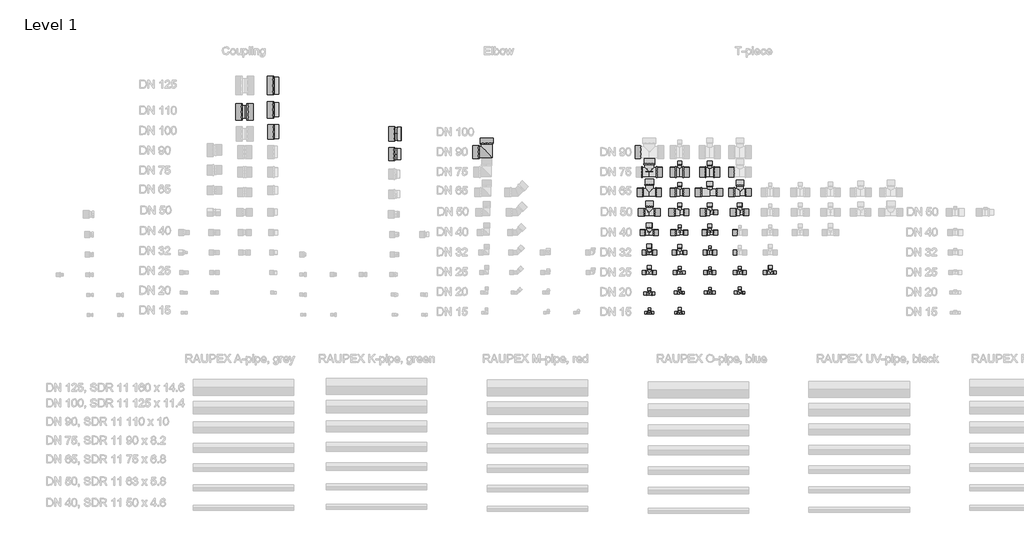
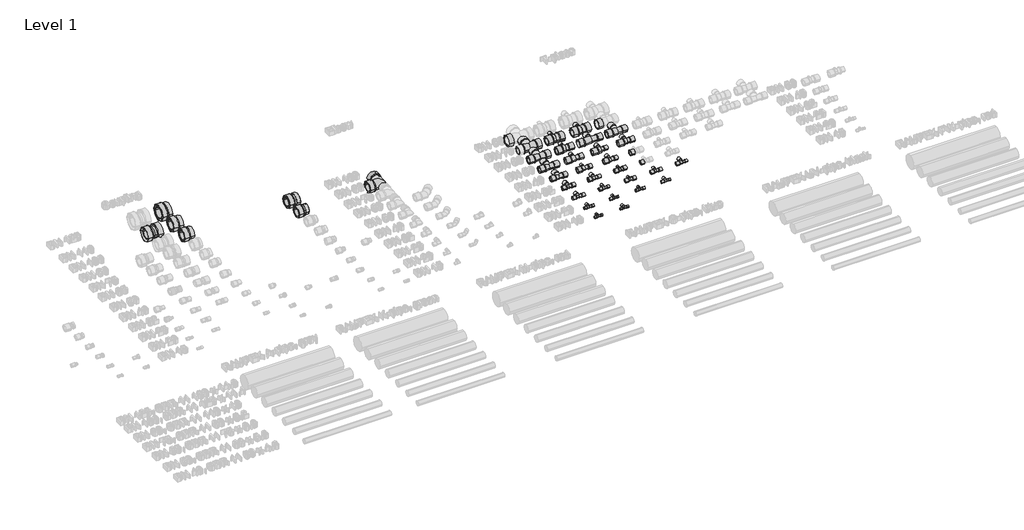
# One storey, part 4 of 15: 131 pipe fittings.
"""IFC4 building model written with IfcOpenShell, lengths in millimetres."""

from ifc_helpers import new_model, si_unit, origin, place, context, project, spatial, transform, mapped, element, save
from components import pipe_fitting_d056a93d, pipe_fitting_60fb9633, pipe_fitting_58d926c8, coupling_union_d5728b00, elbow_sdr11_lx_elbow_sdr_11_rx_9d03f633, male_adapter_external_thread_sdr11_male_adapter_rx_6bbcd7e3, male_adapter_external_thread_sdr11_male_adapter_rx_e6c9b75a, sleeve_lx_11_2e170aa1, sleeve_lx_11_3fcb8560, sleeve_lx_11_f19e3dbf, sleeve_lx_11_b9b419b6, sleeve_lx_11_e5eab1a7, sleeve_lx_11_ddfe2885, sleeve_rx_11_7b1edd19, sleeve_rx_11_d7843ee1, sleeve_rx_11_d7b6a074, sleeve_rx_11_833a9f47, sleeve_rx_11_cce1b402, sleeve_rx_11_53dfce0b, t_piece_sdr11_lx_0c2399d6, t_piece_sdr11_lx_7e9e5686, t_piece_sdr11_lx_2a0a5856, t_piece_sdr11_lx_9701a7f1, t_piece_sdr11_lx_c61b86e7, t_piece_sdr11_lx_81dca7c0, t_piece_sdr11_lx_fe109eb9, t_piece_sdr11_lx_d24ca570, t_piece_sdr11_lx_0c38f34f, t_piece_sdr11_lx_75e13a52, t_piece_sdr11_lx_4c8c54f7, t_piece_sdr11_lx_63dd1f1d, t_piece_sdr11_lx_b9ecea4a, t_piece_sdr11_lx_dfdbaae2, t_piece_sdr11_lx_df0b7dc8, t_piece_sdr11_lx_472ff839, t_piece_sdr11_lx_571a734e, t_piece_sdr11_lx_031e45e8, t_piece_sdr11_lx_4579e213, t_piece_sdr11_lx_62f51ed1, t_piece_sdr11_lx_d5a7428d, t_piece_sdr11_lx_t_piece_sdr11_rx_1e658908, t_piece_sdr11_lx_t_piece_sdr11_rx_ffd7d234, t_piece_sdr11_lx_t_piece_sdr11_rx_21ca84d2, t_piece_sdr11_lx_t_piece_sdr11_rx_c902879b, t_piece_sdr11_lx_t_piece_sdr11_rx_e4a54ba6, t_piece_sdr11_lx_t_piece_sdr11_rx_d9e8349e, t_piece_sdr11_lx_t_piece_sdr11_rx_7a841b34

model = new_model("IFC4")

# Units and contexts
model_context = context("Model", 3, world=origin())
ifc_project = project(units=[si_unit("LENGTHUNIT", "METRE", prefix="MILLI")], contexts=[model_context])

# Site, building, storey
site = spatial("IfcSite", under=ifc_project)
building = spatial("IfcBuilding", under=site)
storey = spatial("IfcBuildingStorey", under=building, Name="Level 1", Elevation=0.0)

# Pipe fittings
placement = place(None, origin())
pipe_fitting_shape = pipe_fitting_d056a93d(model_context)
element("IfcPipeFitting", 1, ObjectType="Adapter with welding end : A welding RX", at=placement, inside=storey, context=model_context, shape_type="MappedRepresentation", body=[
    mapped(pipe_fitting_shape, transform((12403.1112925, 2700.5489138, 0.0), x_axis=(1.0, 0.0, 0.0), y_axis=(0.0, 1.0, 0.0), z_axis=(0.0, 0.0, 1.0))),
])
pipe_fitting_2_shape = pipe_fitting_60fb9633(model_context)
element("IfcPipeFitting", 2, ObjectType="Adapter with welding end : A welding RX", at=placement, inside=storey, context=model_context, shape_type="MappedRepresentation", body=[
    mapped(pipe_fitting_2_shape, transform((12403.1112925, 2240.5489138, 0.0), x_axis=(1.0, 0.0, 0.0), y_axis=(0.0, 1.0, 0.0), z_axis=(0.0, 0.0, 1.0))),
])
pipe_fitting_3_shape = pipe_fitting_58d926c8(model_context)
element("IfcPipeFitting", 3, ObjectType="Adapter with welding end : A welding RX", at=placement, inside=storey, context=model_context, shape_type="MappedRepresentation", body=[
    mapped(pipe_fitting_3_shape, transform((12403.1112925, 2460.5489138, 0.0), x_axis=(1.0, 0.0, 0.0), y_axis=(0.0, 1.0, 0.0), z_axis=(0.0, 0.0, 1.0))),
])
coupling_union_shape = coupling_union_d5728b00(model_context)
element("IfcPipeFitting", 4, ObjectType="Coupling union : C EQ SDR11 RX", at=placement, inside=storey, context=model_context, shape_type="MappedRepresentation", body=[
    mapped(coupling_union_shape, transform((12103.1112925, 2440.5489138, 0.0), x_axis=(1.0, 0.0, 0.0), y_axis=(0.0, 1.0, 0.0), z_axis=(0.0, 0.0, 1.0))),
])
elbow_sdr11_lx_elbow_sdr_11_rx_shape = elbow_sdr11_lx_elbow_sdr_11_rx_9d03f633(model_context)
element("IfcPipeFitting", 5, ObjectType="Elbow SDR11 LX : Elbow SDR 11 RX", at=placement, inside=storey, context=model_context, shape_type="MappedRepresentation", body=[
    mapped(elbow_sdr11_lx_elbow_sdr_11_rx_shape, transform((14509.6158086, 2040.5489138, 0.0), x_axis=(1.0, 0.0, 0.0), y_axis=(0.0, 1.0, 0.0), z_axis=(0.0, 0.0, 1.0))),
])
male_adapter_external_thread_sdr11_male_adapter_rx_shape = male_adapter_external_thread_sdr11_male_adapter_rx_6bbcd7e3(model_context)
element("IfcPipeFitting", 6, ObjectType="Male adapter external thread SDR11 : Male adapter RX", at=placement, inside=storey, context=model_context, shape_type="MappedRepresentation", body=[
    mapped(male_adapter_external_thread_sdr11_male_adapter_rx_shape, transform((13596.8014725, 2020.5489138, 0.0), x_axis=(1.0, 0.0, 0.0), y_axis=(0.0, 1.0, 0.0), z_axis=(0.0, 0.0, 1.0))),
])
male_adapter_external_thread_sdr11_male_adapter_rx_2_shape = male_adapter_external_thread_sdr11_male_adapter_rx_e6c9b75a(model_context)
element("IfcPipeFitting", 7, ObjectType="Male adapter external thread SDR11 : Male adapter RX", at=placement, inside=storey, context=model_context, shape_type="MappedRepresentation", body=[
    mapped(male_adapter_external_thread_sdr11_male_adapter_rx_2_shape, transform((13596.8014725, 2220.5489138, 0.0), x_axis=(1.0, 0.0, 0.0), y_axis=(0.0, 1.0, 0.0), z_axis=(0.0, 0.0, 1.0))),
])
sleeve_lx_11_shape = sleeve_lx_11_2e170aa1(model_context)
element("IfcPipeFitting", 8, ObjectType="Sleeve : LX 11", at=placement, inside=storey, context=model_context, shape_type="MappedRepresentation", body=[
    mapped(sleeve_lx_11_shape, transform((16056.7141419, 840.5489138, 0.0), x_axis=(1.0, 0.0, 0.0), y_axis=(0.0, 1.0, 0.0), z_axis=(0.0, 0.0, 1.0))),
])
element("IfcPipeFitting", 9, ObjectType="Sleeve : LX 11", at=placement, inside=storey, context=model_context, shape_type="MappedRepresentation", body=[
    mapped(sleeve_lx_11_shape, transform((16126.2141419, 875.5489138, 0.0), x_axis=(0.0, 1.0, 0.0), y_axis=(-1.0, 0.0, 0.0), z_axis=(0.0, 0.0, 1.0))),
])
element("IfcPipeFitting", 10, ObjectType="Sleeve : LX 11", at=placement, inside=storey, context=model_context, shape_type="MappedRepresentation", body=[
    mapped(sleeve_lx_11_shape, transform((16160.7141419, 840.5489138, 0.0), x_axis=(1.0, 0.0, 0.0), y_axis=(0.0, 1.0, 0.0), z_axis=(0.0, 0.0, 1.0))),
])
element("IfcPipeFitting", 11, ObjectType="Sleeve : LX 11", at=placement, inside=storey, context=model_context, shape_type="MappedRepresentation", body=[
    mapped(sleeve_lx_11_shape, transform((16361.4141419, 840.5489138, 0.0), x_axis=(1.0, 0.0, 0.0), y_axis=(0.0, 1.0, 0.0), z_axis=(0.0, 0.0, 1.0))),
])
element("IfcPipeFitting", 12, ObjectType="Sleeve : LX 11", at=placement, inside=storey, context=model_context, shape_type="MappedRepresentation", body=[
    mapped(sleeve_lx_11_shape, transform((16426.2141419, 1082.5489138, 0.0), x_axis=(0.0, 1.0, 0.0), y_axis=(-1.0, 0.0, 0.0), z_axis=(0.0, 0.0, 1.0))),
])
element("IfcPipeFitting", 13, ObjectType="Sleeve : LX 11", at=placement, inside=storey, context=model_context, shape_type="MappedRepresentation", body=[
    mapped(sleeve_lx_11_shape, transform((16461.2141419, 1040.5489138, 0.0), x_axis=(1.0, 0.0, 0.0), y_axis=(0.0, 1.0, 0.0), z_axis=(0.0, 0.0, 1.0))),
])
element("IfcPipeFitting", 14, ObjectType="Sleeve : LX 11", at=placement, inside=storey, context=model_context, shape_type="MappedRepresentation", body=[
    mapped(sleeve_lx_11_shape, transform((16726.2141419, 1288.9489138, 0.0), x_axis=(0.0, 1.0, 0.0), y_axis=(-1.0, 0.0, 0.0), z_axis=(0.0, 0.0, 1.0))),
])
element("IfcPipeFitting", 15, ObjectType="Sleeve : LX 11", at=placement, inside=storey, context=model_context, shape_type="MappedRepresentation", body=[
    mapped(sleeve_lx_11_shape, transform((16426.2141419, 1495.5489138, 0.0), x_axis=(0.0, 1.0, 0.0), y_axis=(-1.0, 0.0, 0.0), z_axis=(0.0, 0.0, 1.0))),
])
element("IfcPipeFitting", 16, ObjectType="Sleeve : LX 11", at=placement, inside=storey, context=model_context, shape_type="MappedRepresentation", body=[
    mapped(sleeve_lx_11_shape, transform((16426.2141419, 1702.5489138, 0.0), x_axis=(0.0, 1.0, 0.0), y_axis=(-1.0, 0.0, 0.0), z_axis=(0.0, 0.0, 1.0))),
])
element("IfcPipeFitting", 17, ObjectType="Sleeve : LX 11", at=placement, inside=storey, context=model_context, shape_type="MappedRepresentation", body=[
    mapped(sleeve_lx_11_shape, transform((16665.2141419, 840.5489138, 0.0), x_axis=(1.0, 0.0, 0.0), y_axis=(0.0, 1.0, 0.0), z_axis=(0.0, 0.0, 1.0))),
])
element("IfcPipeFitting", 18, ObjectType="Sleeve : LX 11", at=placement, inside=storey, context=model_context, shape_type="MappedRepresentation", body=[
    mapped(sleeve_lx_11_shape, transform((16752.2141419, 840.5489138, 0.0), x_axis=(1.0, 0.0, 0.0), y_axis=(0.0, 1.0, 0.0), z_axis=(0.0, 0.0, 1.0))),
])
element("IfcPipeFitting", 19, ObjectType="Sleeve : LX 11", at=placement, inside=storey, context=model_context, shape_type="MappedRepresentation", body=[
    mapped(sleeve_lx_11_shape, transform((16961.7141419, 840.5489138, 0.0), x_axis=(1.0, 0.0, 0.0), y_axis=(0.0, 1.0, 0.0), z_axis=(0.0, 0.0, 1.0))),
])
element("IfcPipeFitting", 20, ObjectType="Sleeve : LX 11", at=placement, inside=storey, context=model_context, shape_type="MappedRepresentation", body=[
    mapped(sleeve_lx_11_shape, transform((17055.7141419, 840.5489138, 0.0), x_axis=(1.0, 0.0, 0.0), y_axis=(0.0, 1.0, 0.0), z_axis=(0.0, 0.0, 1.0))),
])
element("IfcPipeFitting", 21, ObjectType="Sleeve : LX 11", at=placement, inside=storey, context=model_context, shape_type="MappedRepresentation", body=[
    mapped(sleeve_lx_11_shape, transform((16426.2141419, 1913.0489138, 0.0), x_axis=(0.0, 1.0, 0.0), y_axis=(-1.0, 0.0, 0.0), z_axis=(0.0, 0.0, 1.0))),
])
element("IfcPipeFitting", 22, ObjectType="Sleeve : LX 11", at=placement, inside=storey, context=model_context, shape_type="MappedRepresentation", body=[
    mapped(sleeve_lx_11_shape, transform((17256.7141419, 840.5489138, 0.0), x_axis=(1.0, 0.0, 0.0), y_axis=(0.0, 1.0, 0.0), z_axis=(0.0, 0.0, 1.0))),
])
element("IfcPipeFitting", 23, ObjectType="Sleeve : LX 11", at=placement, inside=storey, context=model_context, shape_type="MappedRepresentation", body=[
    mapped(sleeve_lx_11_shape, transform((17326.2141419, 875.9489138, 0.0), x_axis=(0.0, 1.0, 0.0), y_axis=(-1.0, 0.0, 0.0), z_axis=(0.0, 0.0, 1.0))),
])
sleeve_lx_11_2_shape = sleeve_lx_11_3fcb8560(model_context)
element("IfcPipeFitting", 24, ObjectType="Sleeve : LX 11", at=placement, inside=storey, context=model_context, shape_type="MappedRepresentation", body=[
    mapped(sleeve_lx_11_2_shape, transform((16081.2141419, 440.5489138, 0.0), x_axis=(1.0, 0.0, 0.0), y_axis=(0.0, 1.0, 0.0), z_axis=(0.0, 0.0, 1.0))),
])
element("IfcPipeFitting", 25, ObjectType="Sleeve : LX 11", at=placement, inside=storey, context=model_context, shape_type="MappedRepresentation", body=[
    mapped(sleeve_lx_11_2_shape, transform((16126.2141419, 468.9489138, 0.0), x_axis=(0.0, 1.0, 0.0), y_axis=(-1.0, 0.0, 0.0), z_axis=(0.0, 0.0, 1.0))),
])
element("IfcPipeFitting", 26, ObjectType="Sleeve : LX 11", at=placement, inside=storey, context=model_context, shape_type="MappedRepresentation", body=[
    mapped(sleeve_lx_11_2_shape, transform((16151.2141419, 440.5489138, 0.0), x_axis=(1.0, 0.0, 0.0), y_axis=(0.0, 1.0, 0.0), z_axis=(0.0, 0.0, 1.0))),
])
element("IfcPipeFitting", 27, ObjectType="Sleeve : LX 11", at=placement, inside=storey, context=model_context, shape_type="MappedRepresentation", body=[
    mapped(sleeve_lx_11_2_shape, transform((16426.2141419, 671.6489138, 0.0), x_axis=(0.0, 1.0, 0.0), y_axis=(-1.0, 0.0, 0.0), z_axis=(0.0, 0.0, 1.0))),
])
element("IfcPipeFitting", 28, ObjectType="Sleeve : LX 11", at=placement, inside=storey, context=model_context, shape_type="MappedRepresentation", body=[
    mapped(sleeve_lx_11_2_shape, transform((16451.2141419, 640.5489138, 0.0), x_axis=(1.0, 0.0, 0.0), y_axis=(0.0, 1.0, 0.0), z_axis=(0.0, 0.0, 1.0))),
])
element("IfcPipeFitting", 29, ObjectType="Sleeve : LX 11", at=placement, inside=storey, context=model_context, shape_type="MappedRepresentation", body=[
    mapped(sleeve_lx_11_2_shape, transform((16726.2141419, 671.6489138, 0.0), x_axis=(0.0, 1.0, 0.0), y_axis=(-1.0, 0.0, 0.0), z_axis=(0.0, 0.0, 1.0))),
])
element("IfcPipeFitting", 30, ObjectType="Sleeve : LX 11", at=placement, inside=storey, context=model_context, shape_type="MappedRepresentation", body=[
    mapped(sleeve_lx_11_2_shape, transform((16726.2141419, 875.5489138, 0.0), x_axis=(0.0, 1.0, 0.0), y_axis=(-1.0, 0.0, 0.0), z_axis=(0.0, 0.0, 1.0))),
])
element("IfcPipeFitting", 31, ObjectType="Sleeve : LX 11", at=placement, inside=storey, context=model_context, shape_type="MappedRepresentation", body=[
    mapped(sleeve_lx_11_2_shape, transform((16726.2141419, 1082.7489138, 0.0), x_axis=(0.0, 1.0, 0.0), y_axis=(-1.0, 0.0, 0.0), z_axis=(0.0, 0.0, 1.0))),
])
element("IfcPipeFitting", 32, ObjectType="Sleeve : LX 11", at=placement, inside=storey, context=model_context, shape_type="MappedRepresentation", body=[
    mapped(sleeve_lx_11_2_shape, transform((16377.7141419, 440.5489138, 0.0), x_axis=(1.0, 0.0, 0.0), y_axis=(0.0, 1.0, 0.0), z_axis=(0.0, 0.0, 1.0))),
])
element("IfcPipeFitting", 33, ObjectType="Sleeve : LX 11", at=placement, inside=storey, context=model_context, shape_type="MappedRepresentation", body=[
    mapped(sleeve_lx_11_2_shape, transform((16454.7141419, 440.5489138, 0.0), x_axis=(1.0, 0.0, 0.0), y_axis=(0.0, 1.0, 0.0), z_axis=(0.0, 0.0, 1.0))),
])
element("IfcPipeFitting", 34, ObjectType="Sleeve : LX 11", at=placement, inside=storey, context=model_context, shape_type="MappedRepresentation", body=[
    mapped(sleeve_lx_11_2_shape, transform((17054.2141419, 640.5489138, 0.0), x_axis=(1.0, 0.0, 0.0), y_axis=(0.0, 1.0, 0.0), z_axis=(0.0, 0.0, 1.0))),
])
sleeve_lx_11_3_shape = sleeve_lx_11_f19e3dbf(model_context)
element("IfcPipeFitting", 35, ObjectType="Sleeve : LX 11", at=placement, inside=storey, context=model_context, shape_type="MappedRepresentation", body=[
    mapped(sleeve_lx_11_3_shape, transform((16070.7141419, 630.5489138, 0.0), x_axis=(1.0, 0.0, 0.0), y_axis=(0.0, 1.0, 0.0), z_axis=(0.0, 0.0, 1.0))),
])
element("IfcPipeFitting", 36, ObjectType="Sleeve : LX 11", at=placement, inside=storey, context=model_context, shape_type="MappedRepresentation", body=[
    mapped(sleeve_lx_11_3_shape, transform((16126.2141419, 661.6489138, 0.0), x_axis=(0.0, 1.0, 0.0), y_axis=(-1.0, 0.0, 0.0), z_axis=(0.0, 0.0, 1.0))),
])
element("IfcPipeFitting", 37, ObjectType="Sleeve : LX 11", at=placement, inside=storey, context=model_context, shape_type="MappedRepresentation", body=[
    mapped(sleeve_lx_11_3_shape, transform((16154.7141419, 630.5489138, 0.0), x_axis=(1.0, 0.0, 0.0), y_axis=(0.0, 1.0, 0.0), z_axis=(0.0, 0.0, 1.0))),
])
element("IfcPipeFitting", 38, ObjectType="Sleeve : LX 11", at=placement, inside=storey, context=model_context, shape_type="MappedRepresentation", body=[
    mapped(sleeve_lx_11_3_shape, transform((16374.2141419, 640.5489138, 0.0), x_axis=(1.0, 0.0, 0.0), y_axis=(0.0, 1.0, 0.0), z_axis=(0.0, 0.0, 1.0))),
])
element("IfcPipeFitting", 39, ObjectType="Sleeve : LX 11", at=placement, inside=storey, context=model_context, shape_type="MappedRepresentation", body=[
    mapped(sleeve_lx_11_3_shape, transform((16426.2141419, 874.5489138, 0.0), x_axis=(0.0, 1.0, 0.0), y_axis=(-1.0, 0.0, 0.0), z_axis=(0.0, 0.0, 1.0))),
])
element("IfcPipeFitting", 40, ObjectType="Sleeve : LX 11", at=placement, inside=storey, context=model_context, shape_type="MappedRepresentation", body=[
    mapped(sleeve_lx_11_3_shape, transform((16455.0141419, 840.5489138, 0.0), x_axis=(1.0, 0.0, 0.0), y_axis=(0.0, 1.0, 0.0), z_axis=(0.0, 0.0, 1.0))),
])
element("IfcPipeFitting", 41, ObjectType="Sleeve : LX 11", at=placement, inside=storey, context=model_context, shape_type="MappedRepresentation", body=[
    mapped(sleeve_lx_11_3_shape, transform((16426.2141419, 1286.4489138, 0.0), x_axis=(0.0, 1.0, 0.0), y_axis=(-1.0, 0.0, 0.0), z_axis=(0.0, 0.0, 1.0))),
])
element("IfcPipeFitting", 42, ObjectType="Sleeve : LX 11", at=placement, inside=storey, context=model_context, shape_type="MappedRepresentation", body=[
    mapped(sleeve_lx_11_3_shape, transform((16673.7141419, 640.5489138, 0.0), x_axis=(1.0, 0.0, 0.0), y_axis=(0.0, 1.0, 0.0), z_axis=(0.0, 0.0, 1.0))),
])
element("IfcPipeFitting", 43, ObjectType="Sleeve : LX 11", at=placement, inside=storey, context=model_context, shape_type="MappedRepresentation", body=[
    mapped(sleeve_lx_11_3_shape, transform((16751.7141419, 640.5489138, 0.0), x_axis=(1.0, 0.0, 0.0), y_axis=(0.0, 1.0, 0.0), z_axis=(0.0, 0.0, 1.0))),
])
element("IfcPipeFitting", 44, ObjectType="Sleeve : LX 11", at=placement, inside=storey, context=model_context, shape_type="MappedRepresentation", body=[
    mapped(sleeve_lx_11_3_shape, transform((17026.2141419, 875.5489138, 0.0), x_axis=(0.0, 1.0, 0.0), y_axis=(-1.0, 0.0, 0.0), z_axis=(0.0, 0.0, 1.0))),
])
element("IfcPipeFitting", 45, ObjectType="Sleeve : LX 11", at=placement, inside=storey, context=model_context, shape_type="MappedRepresentation", body=[
    mapped(sleeve_lx_11_3_shape, transform((16426.2141419, 465.9489138, 0.0), x_axis=(0.0, 1.0, 0.0), y_axis=(-1.0, 0.0, 0.0), z_axis=(0.0, 0.0, 1.0))),
])
element("IfcPipeFitting", 46, ObjectType="Sleeve : LX 11", at=placement, inside=storey, context=model_context, shape_type="MappedRepresentation", body=[
    mapped(sleeve_lx_11_3_shape, transform((16971.2141419, 640.5489138, 0.0), x_axis=(1.0, 0.0, 0.0), y_axis=(0.0, 1.0, 0.0), z_axis=(0.0, 0.0, 1.0))),
])
element("IfcPipeFitting", 47, ObjectType="Sleeve : LX 11", at=placement, inside=storey, context=model_context, shape_type="MappedRepresentation", body=[
    mapped(sleeve_lx_11_3_shape, transform((17026.2141419, 672.0489138, 0.0), x_axis=(0.0, 1.0, 0.0), y_axis=(-1.0, 0.0, 0.0), z_axis=(0.0, 0.0, 1.0))),
])
element("IfcPipeFitting", 48, ObjectType="Sleeve : LX 11", at=placement, inside=storey, context=model_context, shape_type="MappedRepresentation", body=[
    mapped(sleeve_lx_11_3_shape, transform((17359.7141419, 840.5489138, 0.0), x_axis=(1.0, 0.0, 0.0), y_axis=(0.0, 1.0, 0.0), z_axis=(0.0, 0.0, 1.0))),
])
sleeve_lx_11_4_shape = sleeve_lx_11_b9b419b6(model_context)
element("IfcPipeFitting", 49, ObjectType="Sleeve : LX 11", at=placement, inside=storey, context=model_context, shape_type="MappedRepresentation", body=[
    mapped(sleeve_lx_11_4_shape, transform((16054.9141419, 1040.5489138, 0.0), x_axis=(1.0, 0.0, 0.0), y_axis=(0.0, 1.0, 0.0), z_axis=(0.0, 0.0, 1.0))),
])
element("IfcPipeFitting", 50, ObjectType="Sleeve : LX 11", at=placement, inside=storey, context=model_context, shape_type="MappedRepresentation", body=[
    mapped(sleeve_lx_11_4_shape, transform((16126.2141419, 1085.8489138, 0.0), x_axis=(0.0, 1.0, 0.0), y_axis=(-1.0, 0.0, 0.0), z_axis=(0.0, 0.0, 1.0))),
])
element("IfcPipeFitting", 51, ObjectType="Sleeve : LX 11", at=placement, inside=storey, context=model_context, shape_type="MappedRepresentation", body=[
    mapped(sleeve_lx_11_4_shape, transform((16160.5141419, 1040.5489138, 0.0), x_axis=(1.0, 0.0, 0.0), y_axis=(0.0, 1.0, 0.0), z_axis=(0.0, 0.0, 1.0))),
])
element("IfcPipeFitting", 52, ObjectType="Sleeve : LX 11", at=placement, inside=storey, context=model_context, shape_type="MappedRepresentation", body=[
    mapped(sleeve_lx_11_4_shape, transform((16354.2141419, 1040.5489138, 0.0), x_axis=(1.0, 0.0, 0.0), y_axis=(0.0, 1.0, 0.0), z_axis=(0.0, 0.0, 1.0))),
])
element("IfcPipeFitting", 53, ObjectType="Sleeve : LX 11", at=placement, inside=storey, context=model_context, shape_type="MappedRepresentation", body=[
    mapped(sleeve_lx_11_4_shape, transform((16469.2141419, 1240.5489138, 0.0), x_axis=(1.0, 0.0, 0.0), y_axis=(0.0, 1.0, 0.0), z_axis=(0.0, 0.0, 1.0))),
])
element("IfcPipeFitting", 54, ObjectType="Sleeve : LX 11", at=placement, inside=storey, context=model_context, shape_type="MappedRepresentation", body=[
    mapped(sleeve_lx_11_4_shape, transform((16767.3141419, 1240.5489138, 0.0), x_axis=(1.0, 0.0, 0.0), y_axis=(0.0, 1.0, 0.0), z_axis=(0.0, 0.0, 1.0))),
])
element("IfcPipeFitting", 55, ObjectType="Sleeve : LX 11", at=placement, inside=storey, context=model_context, shape_type="MappedRepresentation", body=[
    mapped(sleeve_lx_11_4_shape, transform((16726.2141419, 1497.0489138, 0.0), x_axis=(0.0, 1.0, 0.0), y_axis=(-1.0, 0.0, 0.0), z_axis=(0.0, 0.0, 1.0))),
])
element("IfcPipeFitting", 56, ObjectType="Sleeve : LX 11", at=placement, inside=storey, context=model_context, shape_type="MappedRepresentation", body=[
    mapped(sleeve_lx_11_4_shape, transform((16767.3141419, 1440.5489138, 0.0), x_axis=(1.0, 0.0, 0.0), y_axis=(0.0, 1.0, 0.0), z_axis=(0.0, 0.0, 1.0))),
])
element("IfcPipeFitting", 57, ObjectType="Sleeve : LX 11", at=placement, inside=storey, context=model_context, shape_type="MappedRepresentation", body=[
    mapped(sleeve_lx_11_4_shape, transform((17026.2141419, 1497.0489138, 0.0), x_axis=(0.0, 1.0, 0.0), y_axis=(-1.0, 0.0, 0.0), z_axis=(0.0, 0.0, 1.0))),
])
element("IfcPipeFitting", 58, ObjectType="Sleeve : LX 11", at=placement, inside=storey, context=model_context, shape_type="MappedRepresentation", body=[
    mapped(sleeve_lx_11_4_shape, transform((16659.0141419, 1040.5489138, 0.0), x_axis=(1.0, 0.0, 0.0), y_axis=(0.0, 1.0, 0.0), z_axis=(0.0, 0.0, 1.0))),
])
element("IfcPipeFitting", 59, ObjectType="Sleeve : LX 11", at=placement, inside=storey, context=model_context, shape_type="MappedRepresentation", body=[
    mapped(sleeve_lx_11_4_shape, transform((16756.4141419, 1040.5489138, 0.0), x_axis=(1.0, 0.0, 0.0), y_axis=(0.0, 1.0, 0.0), z_axis=(0.0, 0.0, 1.0))),
])
element("IfcPipeFitting", 60, ObjectType="Sleeve : LX 11", at=placement, inside=storey, context=model_context, shape_type="MappedRepresentation", body=[
    mapped(sleeve_lx_11_4_shape, transform((16959.4141419, 1040.5489138, 0.0), x_axis=(1.0, 0.0, 0.0), y_axis=(0.0, 1.0, 0.0), z_axis=(0.0, 0.0, 1.0))),
])
element("IfcPipeFitting", 61, ObjectType="Sleeve : LX 11", at=placement, inside=storey, context=model_context, shape_type="MappedRepresentation", body=[
    mapped(sleeve_lx_11_4_shape, transform((16726.2141419, 1912.0489138, 0.0), x_axis=(0.0, 1.0, 0.0), y_axis=(-1.0, 0.0, 0.0), z_axis=(0.0, 0.0, 1.0))),
])
sleeve_lx_11_5_shape = sleeve_lx_11_e5eab1a7(model_context)
element("IfcPipeFitting", 62, ObjectType="Sleeve : LX 11", at=placement, inside=storey, context=model_context, shape_type="MappedRepresentation", body=[
    mapped(sleeve_lx_11_5_shape, transform((16036.4141419, 1240.5489138, 0.0), x_axis=(1.0, 0.0, 0.0), y_axis=(0.0, 1.0, 0.0), z_axis=(0.0, 0.0, 1.0))),
])
element("IfcPipeFitting", 63, ObjectType="Sleeve : LX 11", at=placement, inside=storey, context=model_context, shape_type="MappedRepresentation", body=[
    mapped(sleeve_lx_11_5_shape, transform((16126.2141419, 1289.7489138, 0.0), x_axis=(0.0, 1.0, 0.0), y_axis=(-1.0, 0.0, 0.0), z_axis=(0.0, 0.0, 1.0))),
])
element("IfcPipeFitting", 64, ObjectType="Sleeve : LX 11", at=placement, inside=storey, context=model_context, shape_type="MappedRepresentation", body=[
    mapped(sleeve_lx_11_5_shape, transform((16172.0141419, 1240.5489138, 0.0), x_axis=(1.0, 0.0, 0.0), y_axis=(0.0, 1.0, 0.0), z_axis=(0.0, 0.0, 1.0))),
])
element("IfcPipeFitting", 65, ObjectType="Sleeve : LX 11", at=placement, inside=storey, context=model_context, shape_type="MappedRepresentation", body=[
    mapped(sleeve_lx_11_5_shape, transform((16340.6141419, 1240.5489138, 0.0), x_axis=(1.0, 0.0, 0.0), y_axis=(0.0, 1.0, 0.0), z_axis=(0.0, 0.0, 1.0))),
])
element("IfcPipeFitting", 66, ObjectType="Sleeve : LX 11", at=placement, inside=storey, context=model_context, shape_type="MappedRepresentation", body=[
    mapped(sleeve_lx_11_5_shape, transform((16649.9141419, 1240.5489138, 0.0), x_axis=(1.0, 0.0, 0.0), y_axis=(0.0, 1.0, 0.0), z_axis=(0.0, 0.0, 1.0))),
])
element("IfcPipeFitting", 67, ObjectType="Sleeve : LX 11", at=placement, inside=storey, context=model_context, shape_type="MappedRepresentation", body=[
    mapped(sleeve_lx_11_5_shape, transform((16474.8141419, 1440.5489138, 0.0), x_axis=(1.0, 0.0, 0.0), y_axis=(0.0, 1.0, 0.0), z_axis=(0.0, 0.0, 1.0))),
])
element("IfcPipeFitting", 68, ObjectType="Sleeve : LX 11", at=placement, inside=storey, context=model_context, shape_type="MappedRepresentation", body=[
    mapped(sleeve_lx_11_5_shape, transform((17067.4141419, 1440.5489138, 0.0), x_axis=(1.0, 0.0, 0.0), y_axis=(0.0, 1.0, 0.0), z_axis=(0.0, 0.0, 1.0))),
])
element("IfcPipeFitting", 69, ObjectType="Sleeve : LX 11", at=placement, inside=storey, context=model_context, shape_type="MappedRepresentation", body=[
    mapped(sleeve_lx_11_5_shape, transform((16726.2141419, 1701.4489138, 0.0), x_axis=(0.0, 1.0, 0.0), y_axis=(-1.0, 0.0, 0.0), z_axis=(0.0, 0.0, 1.0))),
])
element("IfcPipeFitting", 70, ObjectType="Sleeve : LX 11", at=placement, inside=storey, context=model_context, shape_type="MappedRepresentation", body=[
    mapped(sleeve_lx_11_5_shape, transform((16954.4141419, 1240.5489138, 0.0), x_axis=(1.0, 0.0, 0.0), y_axis=(0.0, 1.0, 0.0), z_axis=(0.0, 0.0, 1.0))),
])
sleeve_lx_11_6_shape = sleeve_lx_11_ddfe2885(model_context)
element("IfcPipeFitting", 71, ObjectType="Sleeve : LX 11", at=placement, inside=storey, context=model_context, shape_type="MappedRepresentation", body=[
    mapped(sleeve_lx_11_6_shape, transform((16017.4141419, 1440.5489138, 0.0), x_axis=(1.0, 0.0, 0.0), y_axis=(0.0, 1.0, 0.0), z_axis=(0.0, 0.0, 1.0))),
])
element("IfcPipeFitting", 72, ObjectType="Sleeve : LX 11", at=placement, inside=storey, context=model_context, shape_type="MappedRepresentation", body=[
    mapped(sleeve_lx_11_6_shape, transform((16126.2141419, 1500.5489138, 0.0), x_axis=(0.0, 1.0, 0.0), y_axis=(-1.0, 0.0, 0.0), z_axis=(0.0, 0.0, 1.0))),
])
element("IfcPipeFitting", 73, ObjectType="Sleeve : LX 11", at=placement, inside=storey, context=model_context, shape_type="MappedRepresentation", body=[
    mapped(sleeve_lx_11_6_shape, transform((16182.0141419, 1440.5489138, 0.0), x_axis=(1.0, 0.0, 0.0), y_axis=(0.0, 1.0, 0.0), z_axis=(0.0, 0.0, 1.0))),
])
element("IfcPipeFitting", 74, ObjectType="Sleeve : LX 11", at=placement, inside=storey, context=model_context, shape_type="MappedRepresentation", body=[
    mapped(sleeve_lx_11_6_shape, transform((16320.2141419, 1440.5489138, 0.0), x_axis=(1.0, 0.0, 0.0), y_axis=(0.0, 1.0, 0.0), z_axis=(0.0, 0.0, 1.0))),
])
element("IfcPipeFitting", 75, ObjectType="Sleeve : LX 11", at=placement, inside=storey, context=model_context, shape_type="MappedRepresentation", body=[
    mapped(sleeve_lx_11_6_shape, transform((16629.9141419, 1440.5489138, 0.0), x_axis=(1.0, 0.0, 0.0), y_axis=(0.0, 1.0, 0.0), z_axis=(0.0, 0.0, 1.0))),
])
element("IfcPipeFitting", 76, ObjectType="Sleeve : LX 11", at=placement, inside=storey, context=model_context, shape_type="MappedRepresentation", body=[
    mapped(sleeve_lx_11_6_shape, transform((16929.9141419, 1440.5489138, 0.0), x_axis=(1.0, 0.0, 0.0), y_axis=(0.0, 1.0, 0.0), z_axis=(0.0, 0.0, 1.0))),
])
element("IfcPipeFitting", 77, ObjectType="Sleeve : LX 11", at=placement, inside=storey, context=model_context, shape_type="MappedRepresentation", body=[
    mapped(sleeve_lx_11_6_shape, transform((16467.7141419, 1640.5489138, 0.0), x_axis=(1.0, 0.0, 0.0), y_axis=(0.0, 1.0, 0.0), z_axis=(0.0, 0.0, 1.0))),
])
element("IfcPipeFitting", 78, ObjectType="Sleeve : LX 11", at=placement, inside=storey, context=model_context, shape_type="MappedRepresentation", body=[
    mapped(sleeve_lx_11_6_shape, transform((16800.0141419, 1640.5489138, 0.0), x_axis=(1.0, 0.0, 0.0), y_axis=(0.0, 1.0, 0.0), z_axis=(0.0, 0.0, 1.0))),
])
element("IfcPipeFitting", 79, ObjectType="Sleeve : LX 11", at=placement, inside=storey, context=model_context, shape_type="MappedRepresentation", body=[
    mapped(sleeve_lx_11_6_shape, transform((17026.2141419, 1708.7489138, 0.0), x_axis=(0.0, 1.0, 0.0), y_axis=(-1.0, 0.0, 0.0), z_axis=(0.0, 0.0, 1.0))),
])
element("IfcPipeFitting", 80, ObjectType="Sleeve : LX 11", at=placement, inside=storey, context=model_context, shape_type="MappedRepresentation", body=[
    mapped(sleeve_lx_11_6_shape, transform((17086.1141419, 1640.5489138, 0.0), x_axis=(1.0, 0.0, 0.0), y_axis=(0.0, 1.0, 0.0), z_axis=(0.0, 0.0, 1.0))),
])
sleeve_rx_11_shape = sleeve_rx_11_7b1edd19(model_context)
element("IfcPipeFitting", 81, ObjectType="Sleeve : RX 11", at=placement, inside=storey, context=model_context, shape_type="MappedRepresentation", body=[
    mapped(sleeve_rx_11_shape, transform((16126.2141419, 1923.1489138, 0.0), x_axis=(0.0, 1.0, 0.0), y_axis=(-1.0, 0.0, 0.0), z_axis=(0.0, 0.0, 1.0))),
])
element("IfcPipeFitting", 82, ObjectType="Sleeve : RX 11", at=placement, inside=storey, context=model_context, shape_type="MappedRepresentation", body=[
    mapped(sleeve_rx_11_shape, transform((16202.8141419, 1840.5489138, 0.0), x_axis=(1.0, 0.0, 0.0), y_axis=(0.0, 1.0, 0.0), z_axis=(0.0, 0.0, 1.0))),
])
element("IfcPipeFitting", 83, ObjectType="Sleeve : RX 11", at=placement, inside=storey, context=model_context, shape_type="MappedRepresentation", body=[
    mapped(sleeve_rx_11_shape, transform((16332.2141419, 1840.5489138, 0.0), x_axis=(1.0, 0.0, 0.0), y_axis=(0.0, 1.0, 0.0), z_axis=(0.0, 0.0, 1.0))),
])
element("IfcPipeFitting", 84, ObjectType="Sleeve : RX 11", at=placement, inside=storey, context=model_context, shape_type="MappedRepresentation", body=[
    mapped(sleeve_rx_11_shape, transform((16467.2141419, 1840.5489138, 0.0), x_axis=(1.0, 0.0, 0.0), y_axis=(0.0, 1.0, 0.0), z_axis=(0.0, 0.0, 1.0))),
])
element("IfcPipeFitting", 85, ObjectType="Sleeve : RX 11", at=placement, inside=storey, context=model_context, shape_type="MappedRepresentation", body=[
    mapped(sleeve_rx_11_shape, transform((16627.3141419, 1840.5489138, 0.0), x_axis=(1.0, 0.0, 0.0), y_axis=(0.0, 1.0, 0.0), z_axis=(0.0, 0.0, 1.0))),
])
element("IfcPipeFitting", 86, ObjectType="Sleeve : RX 11", at=placement, inside=storey, context=model_context, shape_type="MappedRepresentation", body=[
    mapped(sleeve_rx_11_shape, transform((16772.1141419, 1840.5489138, 0.0), x_axis=(1.0, 0.0, 0.0), y_axis=(0.0, 1.0, 0.0), z_axis=(0.0, 0.0, 1.0))),
])
element("IfcPipeFitting", 87, ObjectType="Sleeve : RX 11", at=placement, inside=storey, context=model_context, shape_type="MappedRepresentation", body=[
    mapped(sleeve_rx_11_shape, transform((16914.4141419, 1840.5489138, 0.0), x_axis=(1.0, 0.0, 0.0), y_axis=(0.0, 1.0, 0.0), z_axis=(0.0, 0.0, 1.0))),
])
sleeve_rx_11_2_shape = sleeve_rx_11_d7843ee1(model_context)
element("IfcPipeFitting", 88, ObjectType="Sleeve : RX 11", at=placement, inside=storey, context=model_context, shape_type="MappedRepresentation", body=[
    mapped(sleeve_rx_11_2_shape, transform((13534.6014725, 2020.5489138, 0.0), x_axis=(1.0, 0.0, 0.0), y_axis=(0.0, 1.0, 0.0), z_axis=(0.0, 0.0, 1.0))),
])
element("IfcPipeFitting", 89, ObjectType="Sleeve : RX 11", at=placement, inside=storey, context=model_context, shape_type="MappedRepresentation", body=[
    mapped(sleeve_rx_11_2_shape, transform((14370.8158086, 2040.5489138, 0.0), x_axis=(1.0, 0.0, 0.0), y_axis=(0.0, 1.0, 0.0), z_axis=(0.0, 0.0, 1.0))),
])
element("IfcPipeFitting", 90, ObjectType="Sleeve : RX 11", at=placement, inside=storey, context=model_context, shape_type="MappedRepresentation", body=[
    mapped(sleeve_rx_11_2_shape, transform((14509.6158086, 2179.3489138, 0.0), x_axis=(0.0, -1.0, 0.0), y_axis=(1.0, 0.0, 0.0), z_axis=(0.0, 0.0, 1.0))),
])
element("IfcPipeFitting", 91, ObjectType="Sleeve : RX 11", at=placement, inside=storey, context=model_context, shape_type="MappedRepresentation", body=[
    mapped(sleeve_rx_11_2_shape, transform((15986.0141419, 2040.5489138, 0.0), x_axis=(1.0, 0.0, 0.0), y_axis=(0.0, 1.0, 0.0), z_axis=(0.0, 0.0, 1.0))),
])
sleeve_rx_11_3_shape = sleeve_rx_11_d7b6a074(model_context)
element("IfcPipeFitting", 92, ObjectType="Sleeve : RX 11", at=placement, inside=storey, context=model_context, shape_type="MappedRepresentation", body=[
    mapped(sleeve_rx_11_3_shape, transform((16006.3141419, 1640.5489138, 0.0), x_axis=(1.0, 0.0, 0.0), y_axis=(0.0, 1.0, 0.0), z_axis=(0.0, 0.0, 1.0))),
])
element("IfcPipeFitting", 93, ObjectType="Sleeve : RX 11", at=placement, inside=storey, context=model_context, shape_type="MappedRepresentation", body=[
    mapped(sleeve_rx_11_3_shape, transform((16126.2141419, 1715.4489138, 0.0), x_axis=(0.0, 1.0, 0.0), y_axis=(-1.0, 0.0, 0.0), z_axis=(0.0, 0.0, 1.0))),
])
element("IfcPipeFitting", 94, ObjectType="Sleeve : RX 11", at=placement, inside=storey, context=model_context, shape_type="MappedRepresentation", body=[
    mapped(sleeve_rx_11_3_shape, transform((16193.1141419, 1640.5489138, 0.0), x_axis=(1.0, 0.0, 0.0), y_axis=(0.0, 1.0, 0.0), z_axis=(0.0, 0.0, 1.0))),
])
element("IfcPipeFitting", 95, ObjectType="Sleeve : RX 11", at=placement, inside=storey, context=model_context, shape_type="MappedRepresentation", body=[
    mapped(sleeve_rx_11_3_shape, transform((16331.3141419, 1640.5489138, 0.0), x_axis=(1.0, 0.0, 0.0), y_axis=(0.0, 1.0, 0.0), z_axis=(0.0, 0.0, 1.0))),
])
element("IfcPipeFitting", 96, ObjectType="Sleeve : RX 11", at=placement, inside=storey, context=model_context, shape_type="MappedRepresentation", body=[
    mapped(sleeve_rx_11_3_shape, transform((16583.4141419, 1640.5489138, 0.0), x_axis=(1.0, 0.0, 0.0), y_axis=(0.0, 1.0, 0.0), z_axis=(0.0, 0.0, 1.0))),
])
element("IfcPipeFitting", 97, ObjectType="Sleeve : RX 11", at=placement, inside=storey, context=model_context, shape_type="MappedRepresentation", body=[
    mapped(sleeve_rx_11_3_shape, transform((16912.8141419, 1640.5489138, 0.0), x_axis=(1.0, 0.0, 0.0), y_axis=(0.0, 1.0, 0.0), z_axis=(0.0, 0.0, 1.0))),
])
sleeve_rx_11_4_shape = sleeve_rx_11_833a9f47(model_context)
element("IfcPipeFitting", 98, ObjectType="Sleeve : RX 11", at=placement, inside=storey, context=model_context, shape_type="MappedRepresentation", body=[
    mapped(sleeve_rx_11_4_shape, transform((13536.3014725, 2220.5489138, 0.0), x_axis=(1.0, 0.0, 0.0), y_axis=(0.0, 1.0, 0.0), z_axis=(0.0, 0.0, 1.0))),
])
element("IfcPipeFitting", 99, ObjectType="Sleeve : RX 11", at=placement, inside=storey, context=model_context, shape_type="MappedRepresentation", body=[
    mapped(sleeve_rx_11_4_shape, transform((12333.4112925, 2240.5489138, 0.0), x_axis=(1.0, 0.0, 0.0), y_axis=(0.0, 1.0, 0.0), z_axis=(0.0, 0.0, 1.0))),
])
sleeve_rx_11_5_shape = sleeve_rx_11_cce1b402(model_context)
element("IfcPipeFitting", 100, ObjectType="Sleeve : RX 11", at=placement, inside=storey, context=model_context, shape_type="MappedRepresentation", body=[
    mapped(sleeve_rx_11_5_shape, transform((12328.1112925, 2460.5489138, 0.0), x_axis=(1.0, 0.0, 0.0), y_axis=(0.0, 1.0, 0.0), z_axis=(0.0, 0.0, 1.0))),
])
element("IfcPipeFitting", 101, ObjectType="Sleeve : RX 11", at=placement, inside=storey, context=model_context, shape_type="MappedRepresentation", body=[
    mapped(sleeve_rx_11_5_shape, transform((12016.1112925, 2440.5489138, 0.0), x_axis=(1.0, 0.0, 0.0), y_axis=(0.0, 1.0, 0.0), z_axis=(0.0, 0.0, 1.0))),
])
element("IfcPipeFitting", 102, ObjectType="Sleeve : RX 11", at=placement, inside=storey, context=model_context, shape_type="MappedRepresentation", body=[
    mapped(sleeve_rx_11_5_shape, transform((12137.1112925, 2440.5489138, 0.0), x_axis=(1.0, 0.0, 0.0), y_axis=(0.0, 1.0, 0.0), z_axis=(0.0, 0.0, 1.0))),
])
sleeve_rx_11_6_shape = sleeve_rx_11_53dfce0b(model_context)
element("IfcPipeFitting", 103, ObjectType="Sleeve : RX 11", at=placement, inside=storey, context=model_context, shape_type="MappedRepresentation", body=[
    mapped(sleeve_rx_11_6_shape, transform((12328.1112925, 2700.5489138, 0.0), x_axis=(1.0, 0.0, 0.0), y_axis=(0.0, 1.0, 0.0), z_axis=(0.0, 0.0, 1.0))),
])
t_piece_sdr11_lx_shape = t_piece_sdr11_lx_0c2399d6(model_context)
element("IfcPipeFitting", 104, ObjectType="T-piece SDR11 LX : T-piece LX SDR11 LX", at=placement, inside=storey, context=model_context, shape_type="MappedRepresentation", body=[
    mapped(t_piece_sdr11_lx_shape, transform((16126.2141419, 440.5489138, 0.0), x_axis=(1.0, 0.0, 0.0), y_axis=(0.0, 1.0, 0.0), z_axis=(0.0, 0.0, 1.0))),
])
t_piece_sdr11_lx_2_shape = t_piece_sdr11_lx_7e9e5686(model_context)
element("IfcPipeFitting", 105, ObjectType="T-piece SDR11 LX : T-piece LX SDR11 LX", at=placement, inside=storey, context=model_context, shape_type="MappedRepresentation", body=[
    mapped(t_piece_sdr11_lx_2_shape, transform((16126.2141419, 630.5489138, 0.0), x_axis=(1.0, 0.0, 0.0), y_axis=(0.0, 1.0, 0.0), z_axis=(0.0, 0.0, 1.0))),
])
t_piece_sdr11_lx_3_shape = t_piece_sdr11_lx_2a0a5856(model_context)
element("IfcPipeFitting", 106, ObjectType="T-piece SDR11 LX : T-piece LX SDR11 LX", at=placement, inside=storey, context=model_context, shape_type="MappedRepresentation", body=[
    mapped(t_piece_sdr11_lx_3_shape, transform((16126.2141419, 840.5489138, 0.0), x_axis=(1.0, 0.0, 0.0), y_axis=(0.0, 1.0, 0.0), z_axis=(0.0, 0.0, 1.0))),
])
t_piece_sdr11_lx_4_shape = t_piece_sdr11_lx_9701a7f1(model_context)
element("IfcPipeFitting", 107, ObjectType="T-piece SDR11 LX : T-piece LX SDR11 LX", at=placement, inside=storey, context=model_context, shape_type="MappedRepresentation", body=[
    mapped(t_piece_sdr11_lx_4_shape, transform((16126.2141419, 1040.5489138, 0.0), x_axis=(1.0, 0.0, 0.0), y_axis=(0.0, 1.0, 0.0), z_axis=(0.0, 0.0, 1.0))),
])
t_piece_sdr11_lx_5_shape = t_piece_sdr11_lx_c61b86e7(model_context)
element("IfcPipeFitting", 108, ObjectType="T-piece SDR11 LX : T-piece LX SDR11 LX", at=placement, inside=storey, context=model_context, shape_type="MappedRepresentation", body=[
    mapped(t_piece_sdr11_lx_5_shape, transform((16126.2141419, 1240.5489138, 0.0), x_axis=(1.0, 0.0, 0.0), y_axis=(0.0, 1.0, 0.0), z_axis=(0.0, 0.0, 1.0))),
])
t_piece_sdr11_lx_6_shape = t_piece_sdr11_lx_81dca7c0(model_context)
element("IfcPipeFitting", 109, ObjectType="T-piece SDR11 LX : T-piece LX SDR11 LX", at=placement, inside=storey, context=model_context, shape_type="MappedRepresentation", body=[
    mapped(t_piece_sdr11_lx_6_shape, transform((16126.2141419, 1440.5489138, 0.0), x_axis=(1.0, 0.0, 0.0), y_axis=(0.0, 1.0, 0.0), z_axis=(0.0, 0.0, 1.0))),
])
t_piece_sdr11_lx_7_shape = t_piece_sdr11_lx_fe109eb9(model_context)
element("IfcPipeFitting", 110, ObjectType="T-piece SDR11 LX : T-piece LX SDR11 LX", at=placement, inside=storey, context=model_context, shape_type="MappedRepresentation", body=[
    mapped(t_piece_sdr11_lx_7_shape, transform((16426.2141419, 640.5489138, 0.0), x_axis=(1.0, 0.0, 0.0), y_axis=(0.0, 1.0, 0.0), z_axis=(0.0, 0.0, 1.0))),
])
t_piece_sdr11_lx_8_shape = t_piece_sdr11_lx_d24ca570(model_context)
element("IfcPipeFitting", 111, ObjectType="T-piece SDR11 LX : T-piece LX SDR11 LX", at=placement, inside=storey, context=model_context, shape_type="MappedRepresentation", body=[
    mapped(t_piece_sdr11_lx_8_shape, transform((16426.2141419, 840.5489138, 0.0), x_axis=(1.0, 0.0, 0.0), y_axis=(0.0, 1.0, 0.0), z_axis=(0.0, 0.0, 1.0))),
])
t_piece_sdr11_lx_9_shape = t_piece_sdr11_lx_0c38f34f(model_context)
element("IfcPipeFitting", 112, ObjectType="T-piece SDR11 LX : T-piece LX SDR11 LX", at=placement, inside=storey, context=model_context, shape_type="MappedRepresentation", body=[
    mapped(t_piece_sdr11_lx_9_shape, transform((16426.2141419, 1040.5489138, 0.0), x_axis=(1.0, 0.0, 0.0), y_axis=(0.0, 1.0, 0.0), z_axis=(0.0, 0.0, 1.0))),
])
t_piece_sdr11_lx_10_shape = t_piece_sdr11_lx_75e13a52(model_context)
element("IfcPipeFitting", 113, ObjectType="T-piece SDR11 LX : T-piece LX SDR11 LX", at=placement, inside=storey, context=model_context, shape_type="MappedRepresentation", body=[
    mapped(t_piece_sdr11_lx_10_shape, transform((16426.2141419, 1240.5489138, 0.0), x_axis=(1.0, 0.0, 0.0), y_axis=(0.0, 1.0, 0.0), z_axis=(0.0, 0.0, 1.0))),
])
t_piece_sdr11_lx_11_shape = t_piece_sdr11_lx_4c8c54f7(model_context)
element("IfcPipeFitting", 114, ObjectType="T-piece SDR11 LX : T-piece LX SDR11 LX", at=placement, inside=storey, context=model_context, shape_type="MappedRepresentation", body=[
    mapped(t_piece_sdr11_lx_11_shape, transform((16726.2141419, 1240.5489138, 0.0), x_axis=(1.0, 0.0, 0.0), y_axis=(0.0, 1.0, 0.0), z_axis=(0.0, 0.0, 1.0))),
])
t_piece_sdr11_lx_12_shape = t_piece_sdr11_lx_63dd1f1d(model_context)
element("IfcPipeFitting", 115, ObjectType="T-piece SDR11 LX : T-piece LX SDR11 LX", at=placement, inside=storey, context=model_context, shape_type="MappedRepresentation", body=[
    mapped(t_piece_sdr11_lx_12_shape, transform((16426.2141419, 1440.5489138, 0.0), x_axis=(1.0, 0.0, 0.0), y_axis=(0.0, 1.0, 0.0), z_axis=(0.0, 0.0, 1.0))),
])
t_piece_sdr11_lx_13_shape = t_piece_sdr11_lx_b9ecea4a(model_context)
element("IfcPipeFitting", 116, ObjectType="T-piece SDR11 LX : T-piece LX SDR11 LX", at=placement, inside=storey, context=model_context, shape_type="MappedRepresentation", body=[
    mapped(t_piece_sdr11_lx_13_shape, transform((16726.2141419, 1440.5489138, 0.0), x_axis=(1.0, 0.0, 0.0), y_axis=(0.0, 1.0, 0.0), z_axis=(0.0, 0.0, 1.0))),
])
t_piece_sdr11_lx_14_shape = t_piece_sdr11_lx_dfdbaae2(model_context)
element("IfcPipeFitting", 117, ObjectType="T-piece SDR11 LX : T-piece LX SDR11 LX", at=placement, inside=storey, context=model_context, shape_type="MappedRepresentation", body=[
    mapped(t_piece_sdr11_lx_14_shape, transform((17026.2141419, 1440.5489138, 0.0), x_axis=(1.0, 0.0, 0.0), y_axis=(0.0, 1.0, 0.0), z_axis=(0.0, 0.0, 1.0))),
])
t_piece_sdr11_lx_15_shape = t_piece_sdr11_lx_df0b7dc8(model_context)
element("IfcPipeFitting", 118, ObjectType="T-piece SDR11 LX : T-piece LX SDR11 LX", at=placement, inside=storey, context=model_context, shape_type="MappedRepresentation", body=[
    mapped(t_piece_sdr11_lx_15_shape, transform((16726.2141419, 640.5489138, 0.0), x_axis=(1.0, 0.0, 0.0), y_axis=(0.0, 1.0, 0.0), z_axis=(0.0, 0.0, 1.0))),
])
t_piece_sdr11_lx_16_shape = t_piece_sdr11_lx_472ff839(model_context)
element("IfcPipeFitting", 119, ObjectType="T-piece SDR11 LX : T-piece LX SDR11 LX", at=placement, inside=storey, context=model_context, shape_type="MappedRepresentation", body=[
    mapped(t_piece_sdr11_lx_16_shape, transform((16726.2141419, 840.5489138, 0.0), x_axis=(1.0, 0.0, 0.0), y_axis=(0.0, 1.0, 0.0), z_axis=(0.0, 0.0, 1.0))),
])
t_piece_sdr11_lx_17_shape = t_piece_sdr11_lx_571a734e(model_context)
element("IfcPipeFitting", 120, ObjectType="T-piece SDR11 LX : T-piece LX SDR11 LX", at=placement, inside=storey, context=model_context, shape_type="MappedRepresentation", body=[
    mapped(t_piece_sdr11_lx_17_shape, transform((17026.2141419, 840.5489138, 0.0), x_axis=(1.0, 0.0, 0.0), y_axis=(0.0, 1.0, 0.0), z_axis=(0.0, 0.0, 1.0))),
])
t_piece_sdr11_lx_18_shape = t_piece_sdr11_lx_031e45e8(model_context)
element("IfcPipeFitting", 121, ObjectType="T-piece SDR11 LX : T-piece LX SDR11 LX", at=placement, inside=storey, context=model_context, shape_type="MappedRepresentation", body=[
    mapped(t_piece_sdr11_lx_18_shape, transform((16726.2141419, 1040.5489138, 0.0), x_axis=(1.0, 0.0, 0.0), y_axis=(0.0, 1.0, 0.0), z_axis=(0.0, 0.0, 1.0))),
])
t_piece_sdr11_lx_19_shape = t_piece_sdr11_lx_4579e213(model_context)
element("IfcPipeFitting", 122, ObjectType="T-piece SDR11 LX : T-piece LX SDR11 LX", at=placement, inside=storey, context=model_context, shape_type="MappedRepresentation", body=[
    mapped(t_piece_sdr11_lx_19_shape, transform((16426.2141419, 440.5489138, 0.0), x_axis=(1.0, 0.0, 0.0), y_axis=(0.0, 1.0, 0.0), z_axis=(0.0, 0.0, 1.0))),
])
t_piece_sdr11_lx_20_shape = t_piece_sdr11_lx_62f51ed1(model_context)
element("IfcPipeFitting", 123, ObjectType="T-piece SDR11 LX : T-piece LX SDR11 LX", at=placement, inside=storey, context=model_context, shape_type="MappedRepresentation", body=[
    mapped(t_piece_sdr11_lx_20_shape, transform((17026.2141419, 640.5489138, 0.0), x_axis=(1.0, 0.0, 0.0), y_axis=(0.0, 1.0, 0.0), z_axis=(0.0, 0.0, 1.0))),
])
t_piece_sdr11_lx_21_shape = t_piece_sdr11_lx_d5a7428d(model_context)
element("IfcPipeFitting", 124, ObjectType="T-piece SDR11 LX : T-piece LX SDR11 LX", at=placement, inside=storey, context=model_context, shape_type="MappedRepresentation", body=[
    mapped(t_piece_sdr11_lx_21_shape, transform((17326.2141419, 840.5489138, 0.0), x_axis=(1.0, 0.0, 0.0), y_axis=(0.0, 1.0, 0.0), z_axis=(0.0, 0.0, 1.0))),
])
t_piece_sdr11_lx_t_piece_sdr11_rx_shape = t_piece_sdr11_lx_t_piece_sdr11_rx_1e658908(model_context)
element("IfcPipeFitting", 125, ObjectType="T-piece SDR11 LX : T-piece SDR11 RX", at=placement, inside=storey, context=model_context, shape_type="MappedRepresentation", body=[
    mapped(t_piece_sdr11_lx_t_piece_sdr11_rx_shape, transform((16126.2141419, 1840.5489138, 0.0), x_axis=(1.0, 0.0, 0.0), y_axis=(0.0, 1.0, 0.0), z_axis=(0.0, 0.0, 1.0))),
])
t_piece_sdr11_lx_t_piece_sdr11_rx_2_shape = t_piece_sdr11_lx_t_piece_sdr11_rx_ffd7d234(model_context)
element("IfcPipeFitting", 126, ObjectType="T-piece SDR11 LX : T-piece SDR11 RX", at=placement, inside=storey, context=model_context, shape_type="MappedRepresentation", body=[
    mapped(t_piece_sdr11_lx_t_piece_sdr11_rx_2_shape, transform((16126.2141419, 1640.5489138, 0.0), x_axis=(1.0, 0.0, 0.0), y_axis=(0.0, 1.0, 0.0), z_axis=(0.0, 0.0, 1.0))),
])
t_piece_sdr11_lx_t_piece_sdr11_rx_3_shape = t_piece_sdr11_lx_t_piece_sdr11_rx_21ca84d2(model_context)
element("IfcPipeFitting", 127, ObjectType="T-piece SDR11 LX : T-piece SDR11 RX", at=placement, inside=storey, context=model_context, shape_type="MappedRepresentation", body=[
    mapped(t_piece_sdr11_lx_t_piece_sdr11_rx_3_shape, transform((16426.2141419, 1640.5489138, 0.0), x_axis=(1.0, 0.0, 0.0), y_axis=(0.0, 1.0, 0.0), z_axis=(0.0, 0.0, 1.0))),
])
t_piece_sdr11_lx_t_piece_sdr11_rx_4_shape = t_piece_sdr11_lx_t_piece_sdr11_rx_c902879b(model_context)
element("IfcPipeFitting", 128, ObjectType="T-piece SDR11 LX : T-piece SDR11 RX", at=placement, inside=storey, context=model_context, shape_type="MappedRepresentation", body=[
    mapped(t_piece_sdr11_lx_t_piece_sdr11_rx_4_shape, transform((16726.2141419, 1640.5489138, 0.0), x_axis=(1.0, 0.0, 0.0), y_axis=(0.0, 1.0, 0.0), z_axis=(0.0, 0.0, 1.0))),
])
t_piece_sdr11_lx_t_piece_sdr11_rx_5_shape = t_piece_sdr11_lx_t_piece_sdr11_rx_e4a54ba6(model_context)
element("IfcPipeFitting", 129, ObjectType="T-piece SDR11 LX : T-piece SDR11 RX", at=placement, inside=storey, context=model_context, shape_type="MappedRepresentation", body=[
    mapped(t_piece_sdr11_lx_t_piece_sdr11_rx_5_shape, transform((17026.2141419, 1640.5489138, 0.0), x_axis=(1.0, 0.0, 0.0), y_axis=(0.0, 1.0, 0.0), z_axis=(0.0, 0.0, 1.0))),
])
t_piece_sdr11_lx_t_piece_sdr11_rx_6_shape = t_piece_sdr11_lx_t_piece_sdr11_rx_d9e8349e(model_context)
element("IfcPipeFitting", 130, ObjectType="T-piece SDR11 LX : T-piece SDR11 RX", at=placement, inside=storey, context=model_context, shape_type="MappedRepresentation", body=[
    mapped(t_piece_sdr11_lx_t_piece_sdr11_rx_6_shape, transform((16426.2141419, 1840.5489138, 0.0), x_axis=(1.0, 0.0, 0.0), y_axis=(0.0, 1.0, 0.0), z_axis=(0.0, 0.0, 1.0))),
])
t_piece_sdr11_lx_t_piece_sdr11_rx_7_shape = t_piece_sdr11_lx_t_piece_sdr11_rx_7a841b34(model_context)
element("IfcPipeFitting", 131, ObjectType="T-piece SDR11 LX : T-piece SDR11 RX", at=placement, inside=storey, context=model_context, shape_type="MappedRepresentation", body=[
    mapped(t_piece_sdr11_lx_t_piece_sdr11_rx_7_shape, transform((16726.2141419, 1840.5489138, 0.0), x_axis=(1.0, 0.0, 0.0), y_axis=(0.0, 1.0, 0.0), z_axis=(0.0, 0.0, 1.0))),
])

save(model, "model.ifc")
